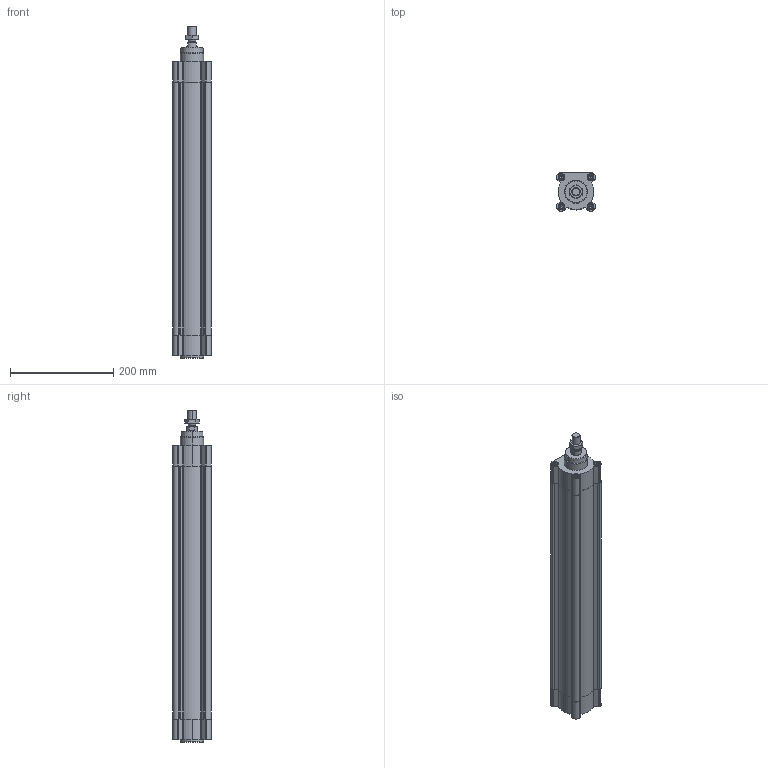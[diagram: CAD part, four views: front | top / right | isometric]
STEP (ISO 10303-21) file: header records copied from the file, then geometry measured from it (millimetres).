
FILE_DESCRIPTION (( 'STEP AP203' ), '1' );
FILE_NAME ('CPME63-450-I.STEP', '2025-01-29T15:08:29', ( '' ), ( '' ), 'SwSTEP 2.0', 'SolidWorks 2019', '' );
FILE_SCHEMA (( 'CONFIG_CONTROL_DESIGN' ));
Length unit declared in the file: millimetre
Products named in the file (1): CPME63-450-I
Bounding box: 75 x 75 x 643.1 mm (x, y, z)
Volume: 1464463.1 mm3; surface area: 377252.7 mm2
Topology: 3 solids, 3 shells, 639 faces, 1655 edges, 1050 vertices
Faces by surface type: plane 325, cylinder 200, cone 106, torus 8
Entity records: 19989 total; most frequent: CARTESIAN_POINT 4403, ORIENTED_EDGE 3278, DIRECTION 3187, EDGE_CURVE 1639, AXIS2_PLACEMENT_3D 1131, VERTEX_POINT 1050, VECTOR 925, LINE 925
